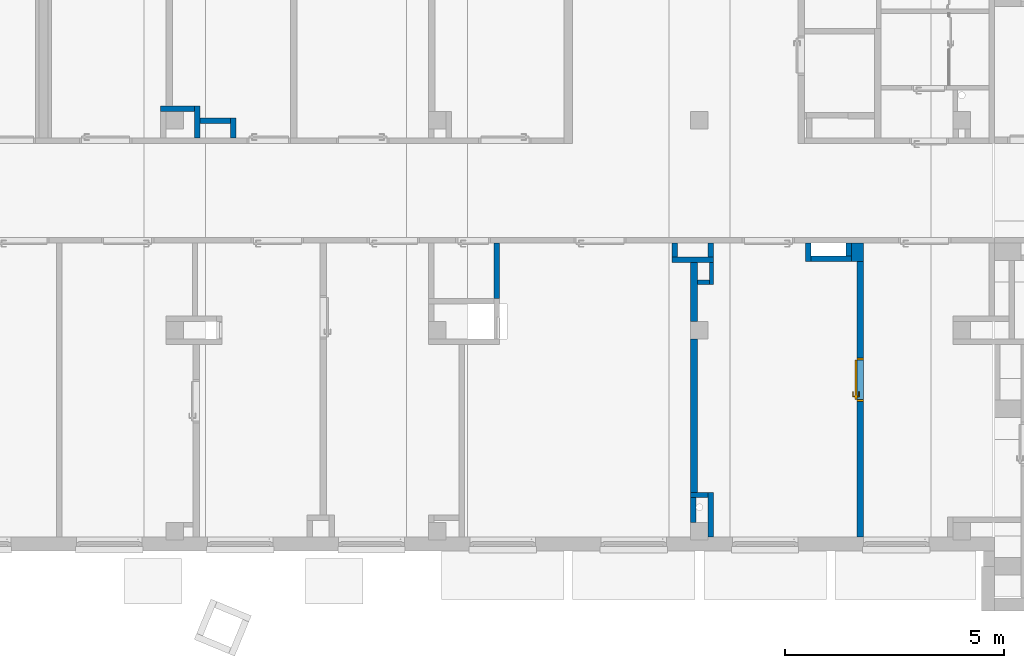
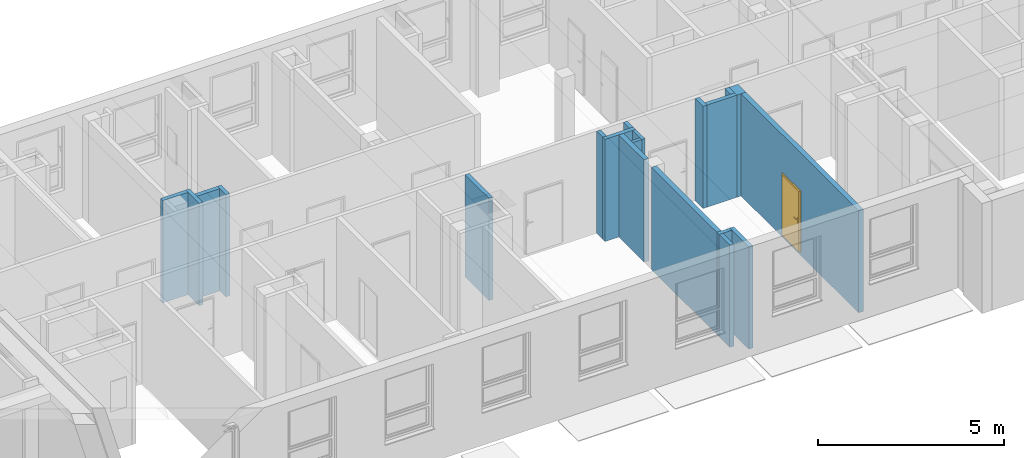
# One storey, part 22 of 140: 20 walls, 1 door, 1 opening.
"""IFC4 building model written with IfcOpenShell, lengths in metres."""

from ifc_helpers import new_model, entity, si_unit, converted_unit, derived_unit, frame, frame_2d, origin, origin_with_axes, place, context, subcontext, project, spatial, polyline, rectangle, outline, extrude, closed_shell, open_shell, surface_model, source, transform, mapped, material, layer, layer_set, layer_usage, type_object, element, fill, save


model = new_model("IFC4")

# Units and contexts
model_context = context("Model", 3, precision=1e-05, world=origin())
body_context = subcontext(model_context, "Body", "Model", "MODEL_VIEW")
ifc_project = project(units=[si_unit("LENGTHUNIT", "METRE"), si_unit("AREAUNIT", "SQUARE_METRE"), si_unit("VOLUMEUNIT", "CUBIC_METRE"), si_unit("MASSUNIT", "GRAM", prefix="KILO"), converted_unit("PLANEANGLEUNIT", "DEGREE", entity("IfcPlaneAngleMeasure", 0.0174532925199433), si_unit("PLANEANGLEUNIT", "RADIAN"), dimensions=[0, 0, 0, 0, 0, 0, 0]), derived_unit("THERMALTRANSMITTANCEUNIT", [(si_unit("POWERUNIT", "WATT"), 1), (si_unit("THERMODYNAMICTEMPERATUREUNIT", "KELVIN"), -1), (si_unit("LENGTHUNIT", "METRE"), -2)]), derived_unit("VOLUMETRICFLOWRATEUNIT", [(si_unit("LENGTHUNIT", "METRE"), 3), (converted_unit("TIMEUNIT", "hour", entity("IfcTimeMeasure", 3600.0), si_unit("TIMEUNIT", "SECOND"), dimensions=[0, 0, 1, 0, 0, 0, 0]), -1), (si_unit("LENGTHUNIT", "METRE"), -1)])], contexts=[model_context])

# Site, building, storey
site_placement = place(None, origin())
site = spatial("IfcSite", under=ifc_project, at=site_placement, Name="3. ASŘ", CompositionType="ELEMENT")
building_placement = place(site_placement, origin())
building = spatial("IfcBuilding", under=site, at=building_placement, Name="Pavilon C", CompositionType="ELEMENT")
storey_placement = place(building_placement, origin())
storey = spatial("IfcBuildingStorey", under=building, at=storey_placement, Name="Půdorys 1.NP", CompositionType="ELEMENT", Elevation=0.0)

# Walls
ifc_material_1 = material(Name="ZDIVO Z CDm")
ifc_layer_1 = layer(ifc_material_1, 0.125)
ifc_layer_set_1 = layer_set([ifc_layer_1])
ifc_layer_usage_1 = layer_usage(ifc_layer_set_1, "AXIS2", "POSITIVE", 0.0)
wall_1_placement = place(storey_placement, frame((5.67500000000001, 10.4, -0.1)))
element("IfcWall", 1, at=wall_1_placement, inside=storey, material=ifc_layer_usage_1, Name="ZDIVO Z CDm", context=body_context, shape_type="SweptSolid", body=[
    extrude(rectangle(XDim=0.775, YDim=0.125, at=frame_2d((0.3875, 0.0625), x_axis=(1.0, 0.0))), origin_with_axes(), (0.0, 0.0, 1.0), 3.35),
])
ifc_material_2 = material(Name="ZDIVO Z CDm")
ifc_layer_2 = layer(ifc_material_2, 0.125)
ifc_layer_set_2 = layer_set([ifc_layer_2])
ifc_layer_usage_2 = layer_usage(ifc_layer_set_2, "AXIS2", "POSITIVE", 0.0)
wall_2_placement = place(storey_placement, frame((6.45000000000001, 10.525, -0.1), z_axis=(0.0, 0.0, 1.0), x_axis=(0.0, -1.0, 0.0)))
element("IfcWall", 2, at=wall_2_placement, inside=storey, material=ifc_layer_usage_2, Name="ZDIVO Z CDm", context=body_context, shape_type="SweptSolid", body=[
    extrude(rectangle(XDim=0.724999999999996, YDim=0.125, at=frame_2d((0.362499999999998, 0.0625), x_axis=(1.0, 0.0))), origin_with_axes(), (0.0, 0.0, 1.0), 3.35),
])
ifc_material_3 = material(Name="ZDIVO Z CDm")
ifc_layer_3 = layer(ifc_material_3, 0.125)
ifc_layer_set_3 = layer_set([ifc_layer_3])
ifc_layer_usage_3 = layer_usage(ifc_layer_set_3, "AXIS2", "POSITIVE", 0.0)
wall_3_placement = place(storey_placement, frame((7.27500000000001, 10.25, -0.1), z_axis=(0.0, 0.0, 1.0), x_axis=(0.0, -1.0, 0.0)))
element("IfcWall", 3, at=wall_3_placement, inside=storey, material=ifc_layer_usage_3, Name="ZDIVO Z CDm", context=body_context, shape_type="SweptSolid", body=[
    extrude(rectangle(XDim=0.449999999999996, YDim=0.125, at=frame_2d((0.224999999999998, 0.0625), x_axis=(1.0, 0.0))), origin_with_axes(), (0.0, 0.0, 1.0), 3.35),
])
ifc_material_4 = material(Name="ZDIVO Z CDm")
ifc_layer_4 = layer(ifc_material_4, 0.125)
ifc_layer_set_4 = layer_set([ifc_layer_4])
ifc_layer_usage_4 = layer_usage(ifc_layer_set_4, "AXIS2", "POSITIVE", 0.0)
wall_4_placement = place(storey_placement, frame((6.57500000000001, 10.125, -0.1)))
element("IfcWall", 4, at=wall_4_placement, inside=storey, material=ifc_layer_usage_4, Name="ZDIVO Z CDm", context=body_context, shape_type="SweptSolid", body=[
    extrude(rectangle(XDim=0.7, YDim=0.125, at=frame_2d((0.35, 0.0625), x_axis=(1.0, 0.0))), origin_with_axes(), (0.0, 0.0, 1.0), 3.35),
])
ifc_material_5 = material(Name="YTONG 125")
ifc_layer_5 = layer(ifc_material_5, 0.125)
ifc_layer_set_5 = layer_set([ifc_layer_5])
ifc_layer_usage_5 = layer_usage(ifc_layer_set_5, "AXIS2", "POSITIVE", 0.0)
wall_5_placement = place(storey_placement, frame((13.425, 6.125, -0.1), z_axis=(0.0, 0.0, 1.0), x_axis=(0.0, 1.0, 0.0)))
element("IfcWall", 5, at=wall_5_placement, inside=storey, material=ifc_layer_usage_5, Name="YTONG 125", context=body_context, shape_type="SweptSolid", body=[
    extrude(rectangle(XDim=1.275, YDim=0.125, at=frame_2d((0.6375, 0.0625), x_axis=(1.0, 0.0))), origin_with_axes(), (0.0, 0.0, 1.0), 3.35),
])
ifc_material_6 = material(Name="ZDIVO Z CDm")
ifc_layer_6 = layer(ifc_material_6, 0.125)
ifc_layer_set_6 = layer_set([ifc_layer_6])
ifc_layer_usage_6 = layer_usage(ifc_layer_set_6, "AXIS2", "POSITIVE", 0.0)
wall_6_placement = place(storey_placement, frame((18.2, 1.695, -0.1), z_axis=(0.0, 0.0, 1.0), x_axis=(0.0, -1.0, 0.0)))
element("IfcWall", 6, at=wall_6_placement, inside=storey, material=ifc_layer_usage_6, Name="ZDIVO Z CDm", context=body_context, shape_type="SweptSolid", body=[
    extrude(rectangle(XDim=1.025, YDim=0.125, at=frame_2d((0.5125, 0.0625), x_axis=(1.0, 0.0))), origin_with_axes(), (0.0, 0.0, 1.0), 3.35),
])
ifc_material_7 = material(Name="ZDIVO Z CDm")
ifc_layer_7 = layer(ifc_material_7, 0.125)
ifc_layer_set_7 = layer_set([ifc_layer_7])
ifc_layer_usage_7 = layer_usage(ifc_layer_set_7, "AXIS2", "POSITIVE", 0.0)
wall_7_placement = place(storey_placement, frame((17.8, 1.57, -0.1)))
element("IfcWall", 7, at=wall_7_placement, inside=storey, material=ifc_layer_usage_7, Name="ZDIVO Z CDm", context=body_context, shape_type="SweptSolid", body=[
    extrude(rectangle(XDim=0.4, YDim=0.125, at=frame_2d((0.2, 0.0625), x_axis=(1.0, 0.0))), origin_with_axes(), (0.0, 0.0, 1.0), 3.35),
])
ifc_material_8 = material(Name="ZDIVO Z CDm")
ifc_layer_8 = layer(ifc_material_8, 0.125)
ifc_layer_set_8 = layer_set([ifc_layer_8])
ifc_layer_usage_8 = layer_usage(ifc_layer_set_8, "AXIS2", "POSITIVE", 0.0)
wall_8_placement = place(storey_placement, frame((17.925, 1.0, -0.1), z_axis=(0.0, 0.0, 1.0), x_axis=(0.0, 1.0, 0.0)))
element("IfcWall", 8, at=wall_8_placement, inside=storey, material=ifc_layer_usage_8, Name="ZDIVO Z CDm", context=body_context, shape_type="SweptSolid", body=[
    extrude(rectangle(XDim=0.570000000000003, YDim=0.125, at=frame_2d((0.285000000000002, 0.0625), x_axis=(1.0, 0.0))), origin_with_axes(), (0.0, 0.0, 1.0), 3.35),
])
ifc_material_9 = material(Name="ZDIVO Z CDm")
ifc_layer_9 = layer(ifc_material_9, 0.125)
ifc_layer_set_9 = layer_set([ifc_layer_9])
ifc_layer_usage_9 = layer_usage(ifc_layer_set_9, "AXIS2", "POSITIVE", 0.0)
wall_9_placement = place(storey_placement, frame((18.325, 7.075, -0.1), z_axis=(0.0, 0.0, 1.0), x_axis=(0.0, 1.0, 0.0)))
element("IfcWall", 9, at=wall_9_placement, inside=storey, material=ifc_layer_usage_9, Name="ZDIVO Z CDm", context=body_context, shape_type="SweptSolid", body=[
    extrude(rectangle(XDim=0.325, YDim=0.125, at=frame_2d((0.1625, 0.0625), x_axis=(1.0, 0.0))), origin_with_axes(), (0.0, 0.0, 1.0), 3.35),
])
ifc_material_10 = material(Name="ZDIVO Z CDm")
ifc_layer_10 = layer(ifc_material_10, 0.125)
ifc_layer_set_10 = layer_set([ifc_layer_10])
ifc_layer_usage_10 = layer_usage(ifc_layer_set_10, "AXIS2", "POSITIVE", 0.0)
wall_10_placement = place(storey_placement, frame((17.375, 6.95, -0.1)))
element("IfcWall", 10, at=wall_10_placement, inside=storey, material=ifc_layer_usage_10, Name="ZDIVO Z CDm", context=body_context, shape_type="SweptSolid", body=[
    extrude(rectangle(XDim=0.95, YDim=0.125, at=frame_2d((0.475, 0.0625), x_axis=(1.0, 0.0))), origin_with_axes(), (0.0, 0.0, 1.0), 3.35),
])
ifc_material_11 = material(Name="ZDIVO Z CDm")
ifc_layer_11 = layer(ifc_material_11, 0.125)
ifc_layer_set_11 = layer_set([ifc_layer_11])
ifc_layer_usage_11 = layer_usage(ifc_layer_set_11, "AXIS2", "POSITIVE", 0.0)
wall_11_placement = place(storey_placement, frame((17.375, 7.4, -0.1), z_axis=(0.0, 0.0, 1.0), x_axis=(0.0, -1.0, 0.0)))
element("IfcWall", 11, at=wall_11_placement, inside=storey, material=ifc_layer_usage_11, Name="ZDIVO Z CDm", context=body_context, shape_type="SweptSolid", body=[
    extrude(rectangle(XDim=0.324999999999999, YDim=0.125, at=frame_2d((0.1625, 0.0625), x_axis=(1.0, 0.0))), origin_with_axes(), (0.0, 0.0, 1.0), 3.35),
])
ifc_material_12 = material(Name="YTONG 150")
ifc_layer_12 = layer(ifc_material_12, 0.15)
ifc_layer_set_12 = layer_set([ifc_layer_12])
ifc_layer_usage_12 = layer_usage(ifc_layer_set_12, "AXIS2", "POSITIVE", 0.0)
wall_12_placement = place(storey_placement, frame((17.8, 5.2, -0.1), z_axis=(0.0, 0.0, 1.0), x_axis=(0.0, -1.0, 0.0)))
element("IfcWall", 12, at=wall_12_placement, inside=storey, material=ifc_layer_usage_12, Name="YTONG 150", context=body_context, shape_type="SweptSolid", body=[
    extrude(rectangle(XDim=3.505, YDim=0.15, at=frame_2d((1.7525, 0.075), x_axis=(1.0, 0.0))), origin_with_axes(), (0.0, 0.0, 1.0), 3.35),
])
ifc_material_13 = material(Name="YTONG 150")
ifc_layer_13 = layer(ifc_material_13, 0.15)
ifc_layer_set_13 = layer_set([ifc_layer_13])
ifc_layer_usage_13 = layer_usage(ifc_layer_set_13, "AXIS2", "POSITIVE", 0.0)
wall_13_placement = place(storey_placement, frame((17.8, 6.95, -0.1), z_axis=(0.0, 0.0, 1.0), x_axis=(0.0, -1.0, 0.0)))
element("IfcWall", 13, at=wall_13_placement, inside=storey, material=ifc_layer_usage_13, Name="YTONG 150", context=body_context, shape_type="SweptSolid", body=[
    extrude(rectangle(XDim=1.35, YDim=0.15, at=frame_2d((0.675, 0.075), x_axis=(1.0, 0.0))), origin_with_axes(), (0.0, 0.0, 1.0), 3.35),
])
ifc_material_14 = material(Name="YTONG 100")
ifc_layer_14 = layer(ifc_material_14, 0.1)
ifc_layer_set_14 = layer_set([ifc_layer_14])
ifc_layer_usage_14 = layer_usage(ifc_layer_set_14, "AXIS2", "POSITIVE", 0.0)
wall_14_placement = place(storey_placement, frame((18.325, 6.45, -0.1), z_axis=(0.0, 0.0, 1.0), x_axis=(0.0, 1.0, 0.0)))
element("IfcWall", 14, at=wall_14_placement, inside=storey, material=ifc_layer_usage_14, Name="YTONG 100", context=body_context, shape_type="SweptSolid", body=[
    extrude(rectangle(XDim=0.5, YDim=0.1, at=frame_2d((0.25, 0.05), x_axis=(1.0, 0.0))), origin_with_axes(), (0.0, 0.0, 1.0), 3.35),
])
ifc_material_15 = material(Name="YTONG 100")
ifc_layer_15 = layer(ifc_material_15, 0.1)
ifc_layer_set_15 = layer_set([ifc_layer_15])
ifc_layer_usage_15 = layer_usage(ifc_layer_set_15, "AXIS2", "POSITIVE", 0.0)
wall_15_placement = place(storey_placement, frame((17.95, 6.45, -0.1)))
element("IfcWall", 15, at=wall_15_placement, inside=storey, material=ifc_layer_usage_15, Name="YTONG 100", context=body_context, shape_type="SweptSolid", body=[
    extrude(rectangle(XDim=0.275, YDim=0.1, at=frame_2d((0.1375, 0.05), x_axis=(1.0, 0.0))), origin_with_axes(), (0.0, 0.0, 1.0), 3.35),
])

# Wall, opening, door
ifc_material_16 = material(Name="YTONG 150")
ifc_layer_16 = layer(ifc_material_16, 0.15)
ifc_layer_set_16 = layer_set([ifc_layer_16])
ifc_layer_usage_16 = layer_usage(ifc_layer_set_16, "AXIS2", "POSITIVE", 0.0)
wall_16_placement = place(storey_placement, frame((21.75, 0.670000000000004, -0.1), z_axis=(0.0, 0.0, 1.0), x_axis=(0.0, 1.0, 0.0)))
wall_16 = element("IfcWall", 16, at=wall_16_placement, inside=storey, material=ifc_layer_usage_16, Name="YTONG 150", context=body_context, shape_type="SweptSolid", body=[
    extrude(rectangle(XDim=6.305, YDim=0.15, at=frame_2d((3.1525, 0.075), x_axis=(1.0, 0.0))), origin_with_axes(), (0.0, 0.0, 1.0), 3.35),
])
opening_placement = place(wall_16_placement, frame((4.1, 0.15, 0.1), z_axis=(0.0, -1.0, 0.0), x_axis=(0.0, 0.0, 1.0)))
opening = element("IfcOpeningElement", 17, at=opening_placement, cuts=wall_16, Name="Dveřní otvor", ObjectType="Opening", context=body_context, shape_type="SweptSolid", body=[
    extrude(outline(polyline([(0.0, 1.0), (2.02, 1.0), (2.02, 0.0), (0.0, 0.0), (0.0, 1.0)])), origin_with_axes(), (0.0, 0.0, 1.0), 0.15),
])
door_type = type_object("IfcDoorType", Name="D101", OperationType="NOTDEFINED", ParameterTakesPrecedence=False, PredefinedType="DOOR")
shared_shape = source(origin_with_axes(), body_context, "Body", "SurfaceModel", [
    surface_model("IfcShellBasedSurfaceModel", [(0.0, 0.15, 2.02), (0.0, 0.15, -9.18485099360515e-18), (0.05, 0.15, -9.18485099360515e-18), (0.05, 0.15, 2.02), (0.0, 0.0, 9.18485099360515e-18), (0.0, 2.55795384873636e-16, 2.02), (0.05, 2.55795384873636e-16, 2.02), (0.05, 0.0, 9.18485099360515e-18)], [closed_shell([[[0, 1, 2, 3]], [[4, 5, 6, 7]], [[1, 0, 5, 4]], [[2, 1, 4, 7]], [[3, 2, 7, 6]], [[0, 3, 6, 5]]], orient=[[False], [False], [False], [False], [False], [False]])]),
    surface_model("IfcShellBasedSurfaceModel", [(0.95, 0.15, 2.02), (0.95, 0.15, -9.18485099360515e-18), (1.0, 0.15, -9.18485099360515e-18), (1.0, 0.15, 2.02), (0.95, 0.0, 9.18485099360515e-18), (0.95, 2.55795384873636e-16, 2.02), (1.0, 2.55795384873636e-16, 2.02), (1.0, 0.0, 9.18485099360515e-18)], [closed_shell([[[0, 1, 2, 3]], [[4, 5, 6, 7]], [[1, 0, 5, 4]], [[2, 1, 4, 7]], [[3, 2, 7, 6]], [[0, 3, 6, 5]]], orient=[[False], [False], [False], [False], [False], [False]])]),
    surface_model("IfcShellBasedSurfaceModel", [(0.05, 0.15, 2.02), (0.05, 0.15, 1.97), (0.95, 0.15, 1.97), (0.95, 0.15, 2.02), (0.05, 2.27373675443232e-16, 1.97), (0.05, 2.27373675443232e-16, 2.02), (0.95, 2.27373675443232e-16, 2.02), (0.95, 2.27373675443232e-16, 1.97)], [closed_shell([[[0, 1, 2, 3]], [[4, 5, 6, 7]], [[1, 0, 5, 4]], [[2, 1, 4, 7]], [[3, 2, 7, 6]], [[0, 3, 6, 5]]], orient=[[False], [False], [False], [False], [False], [False]])]),
    surface_model("IfcShellBasedSurfaceModel", [(0.05, 0.19, 1.97), (0.05, 0.19, -1.40834381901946e-17), (0.95, 0.19, -1.40834381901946e-17), (0.95, 0.19, 1.97), (0.05, 0.15, -9.18485099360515e-18), (0.05, 0.15, 1.97), (0.95, 0.15, 1.97), (0.95, 0.15, -9.18485099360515e-18)], [closed_shell([[[0, 1, 2, 3]], [[4, 5, 6, 7]], [[1, 0, 5, 4]], [[2, 1, 4, 7]], [[3, 2, 7, 6]], [[0, 3, 6, 5]]], orient=[[False], [False], [False], [False], [False], [False]])]),
    surface_model("IfcShellBasedSurfaceModel", [(0.86, 0.15, 1.125), (0.86, 0.15, 0.91), (0.91, 0.15, 0.91), (0.91, 0.15, 1.125), (0.86, 0.14, 0.91), (0.86, 0.14, 1.125), (0.91, 0.14, 1.125), (0.91, 0.14, 0.91)], [closed_shell([[[0, 1, 2, 3]], [[4, 5, 6, 7]], [[1, 0, 5, 4]], [[2, 1, 4, 7]], [[3, 2, 7, 6]], [[0, 3, 6, 5]]], orient=[[False], [False], [False], [False], [False], [False]])]),
    surface_model("IfcShellBasedSurfaceModel", [(0.885, 0.14, 1.06), (0.88, 0.14, 1.05866025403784), (0.876339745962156, 0.14, 1.055), (0.875, 0.14, 1.05), (0.876339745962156, 0.14, 1.045), (0.88, 0.14, 1.04133974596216), (0.885, 0.14, 1.04), (0.89, 0.14, 1.04133974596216), (0.893660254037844, 0.14, 1.045), (0.895, 0.14, 1.05), (0.893660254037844, 0.14, 1.055), (0.89, 0.14, 1.05866025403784), (0.89, 0.0950000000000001, 1.05866025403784), (0.885, 0.1, 1.06), (0.893660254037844, 0.0913397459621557, 1.055), (0.895, 0.0900000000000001, 1.05), (0.893660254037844, 0.0913397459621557, 1.045), (0.89, 0.0950000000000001, 1.04133974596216), (0.885, 0.1, 1.04), (0.88, 0.105, 1.04133974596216), (0.876339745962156, 0.108660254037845, 1.045), (0.875, 0.11, 1.05), (0.876339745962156, 0.108660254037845, 1.055), (0.88, 0.105, 1.05866025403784), (0.77, 0.0950000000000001, 1.05866025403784), (0.77, 0.1, 1.06), (0.77, 0.0913397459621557, 1.055), (0.77, 0.0900000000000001, 1.05), (0.77, 0.0913397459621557, 1.045), (0.77, 0.0950000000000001, 1.04133974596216), (0.77, 0.1, 1.04), (0.77, 0.105, 1.04133974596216), (0.77, 0.108660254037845, 1.045), (0.77, 0.11, 1.05), (0.77, 0.108660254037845, 1.055), (0.77, 0.105, 1.05866025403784)], [open_shell([[[0, 1, 2, 3, 4, 5, 6, 7, 8, 9, 10, 11]], [[0, 11, 12, 13]], [[11, 10, 14, 12]], [[10, 9, 15, 14]], [[9, 8, 16, 15]], [[8, 7, 17, 16]], [[7, 6, 18, 17]], [[6, 5, 19, 18]], [[5, 4, 20, 19]], [[4, 3, 21, 20]], [[3, 2, 22, 21]], [[2, 1, 23, 22]], [[1, 0, 13, 23]], [[13, 12, 24, 25]], [[12, 14, 26, 24]], [[14, 15, 27, 26]], [[15, 16, 28, 27]], [[16, 17, 29, 28]], [[17, 18, 30, 29]], [[18, 19, 31, 30]], [[19, 20, 32, 31]], [[20, 21, 33, 32]], [[21, 22, 34, 33]], [[22, 23, 35, 34]], [[23, 13, 25, 35]]], orient=[[False], [False], [False], [False], [False], [False], [False], [False], [False], [False], [False], [False], [False], [False], [False], [False], [False], [False], [False], [False], [False], [False], [False], [False], [False]])]),
    surface_model("IfcShellBasedSurfaceModel", [(0.86, 0.19, 1.125), (0.91, 0.19, 1.125), (0.91, 0.19, 0.91), (0.86, 0.19, 0.91), (0.86, 0.2, 0.91), (0.91, 0.2, 0.91), (0.91, 0.2, 1.125), (0.86, 0.2, 1.125)], [closed_shell([[[0, 1, 2, 3]], [[4, 5, 6, 7]], [[3, 4, 7, 0]], [[2, 5, 4, 3]], [[1, 6, 5, 2]], [[0, 7, 6, 1]]], orient=[[False], [False], [False], [False], [False], [False]])]),
    surface_model("IfcShellBasedSurfaceModel", [(0.885, 0.2, 1.06), (0.89, 0.2, 1.05866025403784), (0.893660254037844, 0.2, 1.055), (0.895, 0.2, 1.05), (0.893660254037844, 0.2, 1.045), (0.89, 0.2, 1.04133974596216), (0.885, 0.2, 1.04), (0.88, 0.2, 1.04133974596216), (0.876339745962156, 0.2, 1.045), (0.875, 0.2, 1.05), (0.876339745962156, 0.2, 1.055), (0.88, 0.2, 1.05866025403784), (0.885, 0.24, 1.06), (0.89, 0.245, 1.05866025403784), (0.893660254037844, 0.248660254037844, 1.055), (0.895, 0.25, 1.05), (0.893660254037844, 0.248660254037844, 1.045), (0.89, 0.245, 1.04133974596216), (0.885, 0.24, 1.04), (0.88, 0.235, 1.04133974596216), (0.876339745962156, 0.231339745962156, 1.045), (0.875, 0.23, 1.05), (0.876339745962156, 0.231339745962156, 1.055), (0.88, 0.235, 1.05866025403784), (0.77, 0.24, 1.06), (0.77, 0.245, 1.05866025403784), (0.77, 0.248660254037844, 1.055), (0.77, 0.25, 1.05), (0.77, 0.248660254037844, 1.045), (0.77, 0.245, 1.04133974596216), (0.77, 0.24, 1.04), (0.77, 0.235, 1.04133974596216), (0.77, 0.231339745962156, 1.045), (0.77, 0.23, 1.05), (0.77, 0.231339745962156, 1.055), (0.77, 0.235, 1.05866025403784)], [open_shell([[[0, 1, 2, 3, 4, 5, 6, 7, 8, 9, 10, 11]], [[0, 12, 13, 1]], [[1, 13, 14, 2]], [[2, 14, 15, 3]], [[3, 15, 16, 4]], [[4, 16, 17, 5]], [[5, 17, 18, 6]], [[6, 18, 19, 7]], [[7, 19, 20, 8]], [[8, 20, 21, 9]], [[9, 21, 22, 10]], [[10, 22, 23, 11]], [[11, 23, 12, 0]], [[12, 24, 25, 13]], [[13, 25, 26, 14]], [[14, 26, 27, 15]], [[15, 27, 28, 16]], [[16, 28, 29, 17]], [[17, 29, 30, 18]], [[18, 30, 31, 19]], [[19, 31, 32, 20]], [[20, 32, 33, 21]], [[21, 33, 34, 22]], [[22, 34, 35, 23]], [[23, 35, 24, 12]]], orient=[[False], [False], [False], [False], [False], [False], [False], [False], [False], [False], [False], [False], [False], [False], [False], [False], [False], [False], [False], [False], [False], [False], [False], [False], [False]])]),
])
door_placement = place(opening_placement, frame((0.0, 1.81898940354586e-15, 0.149999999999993), z_axis=(1.0, 0.0, 0.0), x_axis=(0.0, 0.999999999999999, -1.22464679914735e-16)))
door = element("IfcDoor", 18, at=door_placement, inside=storey, type_object=door_type, Name="D101", OverallHeight=2.02, OverallWidth=1.0, context=body_context, shape_type="MappedRepresentation", body=[
    mapped(shared_shape, transform((0.0, 0.0, 0.0), x_axis=(1.0, 0.0, 0.0), y_axis=(0.0, -1.0, 0.0), z_axis=(0.0, 0.0, 1.0), scale=0.999999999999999)),
])
fill(opening, door)

# Walls
ifc_material_17 = material(Name="ZDIVO Z CDm")
ifc_layer_17 = layer(ifc_material_17, 0.125)
ifc_layer_set_17 = layer_set([ifc_layer_17])
ifc_layer_usage_17 = layer_usage(ifc_layer_set_17, "AXIS2", "POSITIVE", 0.0)
wall_17_placement = place(storey_placement, frame((21.35, 7.4, -0.1), z_axis=(0.0, 0.0, 1.0), x_axis=(0.0, -1.0, 0.0)))
element("IfcWall", 19, at=wall_17_placement, inside=storey, material=ifc_layer_usage_17, Name="ZDIVO Z CDm", context=body_context, shape_type="SweptSolid", body=[
    extrude(rectangle(XDim=0.3, YDim=0.125, at=frame_2d((0.15, 0.0625), x_axis=(1.0, 0.0))), origin_with_axes(), (0.0, 0.0, 1.0), 3.35),
])
ifc_material_18 = material(Name="YTONG")
ifc_layer_18 = layer(ifc_material_18, 0.274999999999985)
ifc_layer_set_18 = layer_set([ifc_layer_18])
ifc_layer_usage_18 = layer_usage(ifc_layer_set_18, "AXIS2", "POSITIVE", 0.0)
wall_18_placement = place(storey_placement, frame((21.475, 7.4, -0.1), z_axis=(0.0, 0.0, 1.0), x_axis=(0.0, -1.0, 0.0)))
element("IfcWall", 20, at=wall_18_placement, inside=storey, material=ifc_layer_usage_18, Name="YTONG", context=body_context, shape_type="SweptSolid", body=[
    extrude(rectangle(XDim=0.425, YDim=0.274999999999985, at=frame_2d((0.2125, 0.137499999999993), x_axis=(1.0, 0.0))), origin_with_axes(), (0.0, 0.0, 1.0), 3.35),
])
ifc_material_19 = material(Name="ZDIVO Z CDm")
ifc_layer_19 = layer(ifc_material_19, 0.125)
ifc_layer_set_19 = layer_set([ifc_layer_19])
ifc_layer_usage_19 = layer_usage(ifc_layer_set_19, "AXIS2", "POSITIVE", 0.0)
wall_19_placement = place(storey_placement, frame((20.55, 6.975, -0.1), z_axis=(0.0, 0.0, 1.0), x_axis=(0.0, 1.0, 0.0)))
element("IfcWall", 21, at=wall_19_placement, inside=storey, material=ifc_layer_usage_19, Name="ZDIVO Z CDm", context=body_context, shape_type="SweptSolid", body=[
    extrude(rectangle(XDim=0.425, YDim=0.125, at=frame_2d((0.2125, 0.0625), x_axis=(1.0, 0.0))), origin_with_axes(), (0.0, 0.0, 1.0), 3.35),
])
ifc_material_20 = material(Name="ZDIVO Z CDm")
ifc_layer_20 = layer(ifc_material_20, 0.125)
ifc_layer_set_20 = layer_set([ifc_layer_20])
ifc_layer_usage_20 = layer_usage(ifc_layer_set_20, "AXIS2", "POSITIVE", 0.0)
wall_20_placement = place(storey_placement, frame((21.475, 7.1, -0.1), z_axis=(0.0, 0.0, 1.0), x_axis=(-1.0, 0.0, 0.0)))
element("IfcWall", 22, at=wall_20_placement, inside=storey, material=ifc_layer_usage_20, Name="ZDIVO Z CDm", context=body_context, shape_type="SweptSolid", body=[
    extrude(rectangle(XDim=0.925, YDim=0.125, at=frame_2d((0.4625, 0.0625), x_axis=(1.0, 0.0))), origin_with_axes(), (0.0, 0.0, 1.0), 3.35),
])

save(model, "model.ifc")
